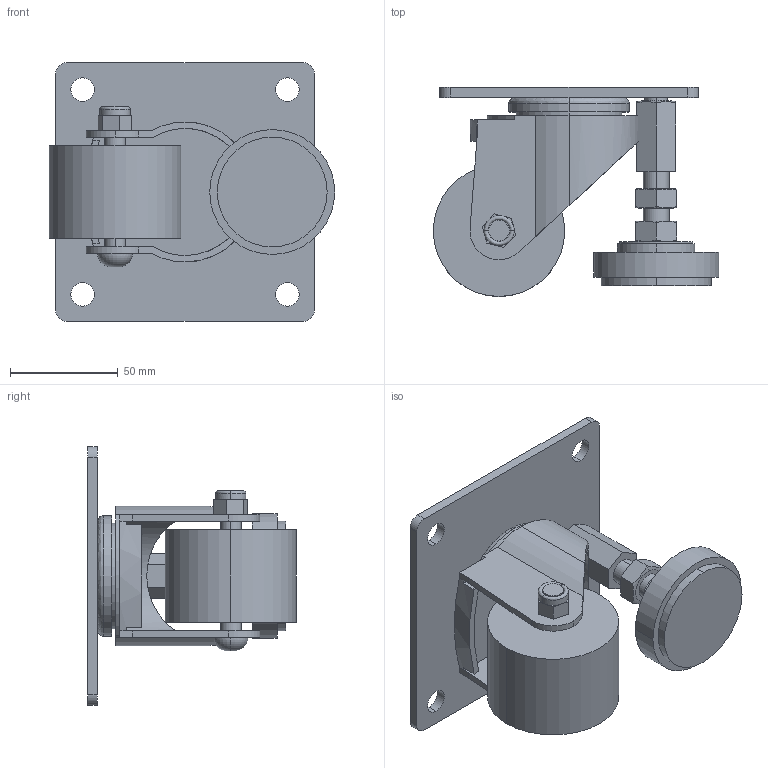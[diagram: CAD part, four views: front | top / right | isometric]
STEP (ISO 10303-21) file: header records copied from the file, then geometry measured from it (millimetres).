
FILE_DESCRIPTION (( 'STEP AP203' ), '1' );
FILE_NAME ('FG-01.STEP', '2015-11-23T06:56:08', ( '' ), ( '' ), 'SwSTEP 2.0', 'SolidWorks 2014', '' );
FILE_SCHEMA (( 'CONFIG_CONTROL_DESIGN' ));
Length unit declared in the file: millimetre
Products named in the file (1): FG-01
Bounding box: 132.5 x 97 x 120 mm (x, y, z)
Volume: 312061.7 mm3; surface area: 83094.1 mm2
Topology: 3 solids, 3 shells, 153 faces, 360 edges, 231 vertices
Faces by surface type: plane 73, cylinder 62, bspline 15, torus 3
Entity records: 4893 total; most frequent: CARTESIAN_POINT 1390, ORIENTED_EDGE 720, DIRECTION 699, EDGE_CURVE 360, AXIS2_PLACEMENT_3D 268, VERTEX_POINT 231, EDGE_LOOP 181, LINE 163
